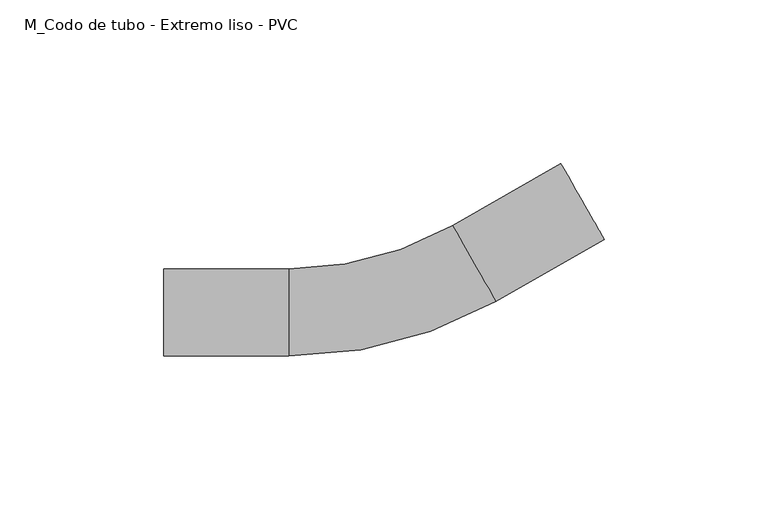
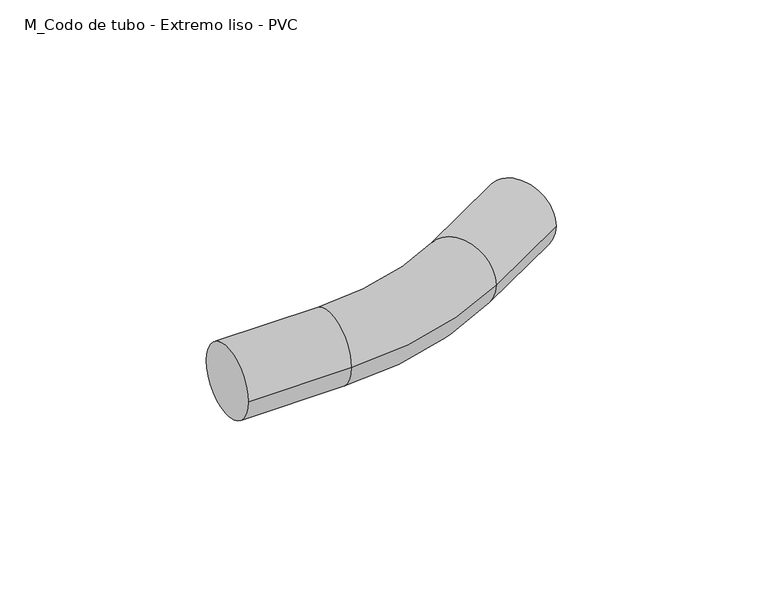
"""IFC4 building model written with IfcOpenShell, lengths in millimetres: cable carrier fitting geometry, M_Codo de tubo - Extremo liso - PVC : CODO ILUMINACION."""

from ifc_helpers import new_model, si_unit, point, frame, origin, place, context, project, spatial, circle_curve, ellipse_curve, trimmed, source, transform, mapped, element, save
from ifc_brep_helpers import plane_surface, cylinder_surface, revolved_surface, advanced_brep


def m_codo_de_tubo_extremo_liso_pvc_6b1aaa2f(model_context):
    return source(origin(), model_context, "Body", "AdvancedBrep", [
        advanced_brep(
        [(-68.4137499, -13.335, 0.0), (-68.4137499, 13.335, 0.0), (-30.3137499, -13.335, 0.0), (-30.3137499, 13.335, 0.0), (19.7212082, 26.6048793, 0.0), (32.9379896, 3.4401305, 0.0), (66.030488, 22.3212468, 0.0), (52.8137066, 45.4859956, 0.0)],
        [
            (0, 1, circle_curve(frame((-68.4137499, 0.0, 0.0), z_axis=(-1.0, 0.0, 0.0), x_axis=(0.0, 1.0, 0.0)), 13.335)),
            (1, 0, circle_curve(frame((-68.4137499, 0.0, 0.0), z_axis=(-1.0, 0.0, 0.0), x_axis=(0.0, 1.0, 0.0)), 13.335)),
            (0, 2),
            (2, 3, circle_curve(frame((-30.3137499, 0.0, 0.0), z_axis=(-1.0, 0.0, 0.0), x_axis=(0.0, 1.0, 0.0)), 13.335)),
            (3, 1),
            (3, 2, circle_curve(frame((-30.3137499, 0.0, 0.0), z_axis=(-1.0, 0.0, 0.0), x_axis=(0.0, 1.0, 0.0)), 13.335)),
            (4, 3, circle_curve(frame((-30.3137499, 114.3, 0.0), z_axis=(0.0, 0.0, -1.0), x_axis=(0.0, -1.0, 0.0)), 100.965)),
            (2, 5, circle_curve(frame((-30.3137499, 114.3, 0.0), z_axis=(0.0, 0.0, 1.0), x_axis=(0.0, -1.0, 0.0)), 127.635)),
            (5, 4, circle_curve(frame((26.3295989, 15.0225049, 0.0), z_axis=(-0.8685695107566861, -0.4955673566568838, 0.0), x_axis=(-0.4955673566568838, 0.8685695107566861, 0.0)), 13.335)),
            (4, 5, circle_curve(frame((26.3295989, 15.0225049, 0.0), z_axis=(-0.8685695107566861, -0.4955673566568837, 0.0), x_axis=(-0.4955673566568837, 0.8685695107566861, 0.0)), 13.335)),
            (6, 7, circle_curve(frame((59.4220973, 33.9036212, 0.0), z_axis=(0.8685695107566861, 0.49556735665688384, 0.0), x_axis=(-0.49556735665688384, 0.8685695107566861, 0.0)), 13.335)),
            (7, 6, circle_curve(frame((59.4220973, 33.9036212, 0.0), z_axis=(0.8685695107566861, 0.49556735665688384, 0.0), x_axis=(-0.49556735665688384, 0.8685695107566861, 0.0)), 13.335)),
            (5, 6),
            (7, 4),
        ],
        [
            plane_surface(frame((-68.4137499, 0.0, 0.0), z_axis=(-1.0, 0.0, 0.0), x_axis=(0.0, 0.0, 1.0))),
            cylinder_surface(frame((-68.4137499, 0.0, 0.0), z_axis=(-1.0, 0.0, 0.0), x_axis=(0.0, 1.0, 0.0)), 13.335),
            revolved_surface(trimmed(ellipse_curve(frame((-30.3137499, 0.0, 0.0), z_axis=(-1.0, 0.0, 0.0), x_axis=(0.0, 1.0, 0.0)), 13.335, 13.335), [point((-30.3137499, -13.335, 0.0))], [point((-30.3137499, 13.335, 0.0))], True, "CARTESIAN"), (-30.3137499, 114.3, 0.0), (0.0, 0.0, 1.0)),
            revolved_surface(trimmed(ellipse_curve(frame((-30.3137499, 0.0, 0.0), z_axis=(-1.0, 0.0, 0.0), x_axis=(0.0, 1.0, 0.0)), 13.335, 13.335), [point((-30.3137499, 13.335, 0.0))], [point((-30.3137499, -13.335, 0.0))], True, "CARTESIAN"), (-30.3137499, 114.3, 0.0), (0.0, 0.0, 1.0)),
            plane_surface(frame((59.4220973, 33.9036212, 0.0), z_axis=(0.8685695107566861, 0.49556735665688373, 0.0), x_axis=(0.0, 0.0, 1.0))),
            cylinder_surface(frame((26.3295989, 15.0225049, 0.0), z_axis=(-0.8685695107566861, -0.49556735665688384, 0.0), x_axis=(-0.49556735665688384, 0.8685695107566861, 0.0)), 13.335),
        ],
        [
            (0, [[1, 2]]),
            (1, [[-1, 3, 4, 5]]),
            (1, [[-2, -5, 6, -3]]),
            (2, [[7, -4, 8, 9]]),
            (3, [[-8, -6, -7, 10]]),
            (4, [[11, 12]]),
            (5, [[-9, 13, -12, 14]]),
            (5, [[-10, -14, -11, -13]]),
        ],
    ),
    ])


if __name__ == "__main__":
    model = new_model("IFC4")
    model_context = context("Model", 3, world=origin())
    ifc_project = project(units=[si_unit("LENGTHUNIT", "METRE", prefix="MILLI")], contexts=[model_context])
    site = spatial("IfcSite", under=ifc_project)
    building = spatial("IfcBuilding", under=site)
    placement = place(None, origin())
    m_codo_de_tubo_extremo_liso_pvc_shape = m_codo_de_tubo_extremo_liso_pvc_6b1aaa2f(model_context)
    element("IfcCableCarrierFitting", 1, ObjectType="M_Codo de tubo - Extremo liso - PVC : CODO ILUMINACION", at=placement, inside=building, context=model_context, shape_type="MappedRepresentation", body=[
        mapped(m_codo_de_tubo_extremo_liso_pvc_shape, transform((0.0, 0.0, 0.0), x_axis=(1.0, 0.0, 0.0), y_axis=(0.0, 1.0, 0.0), z_axis=(0.0, 0.0, 1.0))),
    ])
    save(model, "model.ifc")
